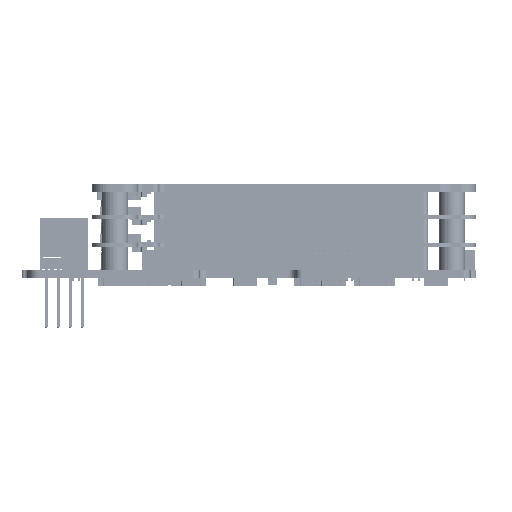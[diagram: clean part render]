
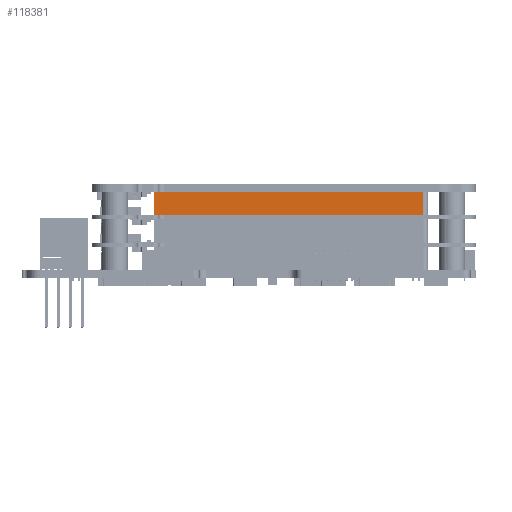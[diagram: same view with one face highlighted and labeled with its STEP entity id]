
A CAD part, left-side view. The second image highlights one B-rep face of the part: STEP entity #118381.
In plain terms, the highlighted planar face has unit normal (-1, 0, 0).
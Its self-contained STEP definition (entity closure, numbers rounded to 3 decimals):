
#668 = VECTOR ( 'NONE', #294332, 1000. ) ;
#13006 = VERTEX_POINT ( 'NONE', #22084 ) ;
#20792 = EDGE_CURVE ( 'NONE', #117996, #361987, #324431, .T. ) ;
#22084 = CARTESIAN_POINT ( 'NONE',  ( -12.111, 70.927, 91.87 ) ) ;
#28476 = CARTESIAN_POINT ( 'NONE',  ( -12.111, 70.927, 91.87 ) ) ;
#45335 = CARTESIAN_POINT ( 'NONE',  ( -12.111, 70.927, 96.87 ) ) ;
#71149 = VERTEX_POINT ( 'NONE', #392777 ) ;
#78044 = AXIS2_PLACEMENT_3D ( 'NONE', #28476, #151017, #92718 ) ;
#88896 = DIRECTION ( 'NONE',  ( 0., 0., 1. ) ) ;
#92718 = DIRECTION ( 'NONE',  ( 0., -1., 0. ) ) ;
#117996 = VERTEX_POINT ( 'NONE', #131209 ) ;
#118381 = ADVANCED_FACE ( 'NONE', ( #301586 ), #337702, .T. ) ;
#131209 = CARTESIAN_POINT ( 'NONE',  ( -12.111, 14.117, 96.87 ) ) ;
#147635 = DIRECTION ( 'NONE',  ( 0., -1., 0. ) ) ;
#151017 = DIRECTION ( 'NONE',  ( -1., 0., 0. ) ) ;
#171877 = CARTESIAN_POINT ( 'NONE',  ( -12.111, 70.927, 96.87 ) ) ;
#177768 = CARTESIAN_POINT ( 'NONE',  ( -12.111, 42.022, 91.87 ) ) ;
#178303 = EDGE_CURVE ( 'NONE', #361987, #13006, #246881, .T. ) ;
#178732 = DIRECTION ( 'NONE',  ( 0., 0., -1. ) ) ;
#204095 = EDGE_LOOP ( 'NONE', ( #267391, #218976, #346412, #239319 ) ) ;
#206207 = VECTOR ( 'NONE', #147635, 1000. ) ;
#218976 = ORIENTED_EDGE ( 'NONE', *, *, #178303, .T. ) ;
#239319 = ORIENTED_EDGE ( 'NONE', *, *, #391596, .T. ) ;
#246881 = LINE ( 'NONE', #397543, #379755 ) ;
#267391 = ORIENTED_EDGE ( 'NONE', *, *, #20792, .T. ) ;
#267647 = LINE ( 'NONE', #394127, #375814 ) ;
#275870 = EDGE_CURVE ( 'NONE', #13006, #71149, #330348, .T. ) ;
#294332 = DIRECTION ( 'NONE',  ( 0., 1., 0. ) ) ;
#301586 = FACE_OUTER_BOUND ( 'NONE', #204095, .T. ) ;
#324431 = LINE ( 'NONE', #171877, #668 ) ;
#330348 = LINE ( 'NONE', #177768, #206207 ) ;
#337702 = PLANE ( 'NONE',  #78044 ) ;
#346412 = ORIENTED_EDGE ( 'NONE', *, *, #275870, .T. ) ;
#361987 = VERTEX_POINT ( 'NONE', #45335 ) ;
#375814 = VECTOR ( 'NONE', #88896, 1000. ) ;
#379755 = VECTOR ( 'NONE', #178732, 1000. ) ;
#391596 = EDGE_CURVE ( 'NONE', #71149, #117996, #267647, .T. ) ;
#392777 = CARTESIAN_POINT ( 'NONE',  ( -12.111, 14.117, 91.87 ) ) ;
#394127 = CARTESIAN_POINT ( 'NONE',  ( -12.111, 14.117, 91.87 ) ) ;
#397543 = CARTESIAN_POINT ( 'NONE',  ( -12.111, 70.927, 91.87 ) ) ;
